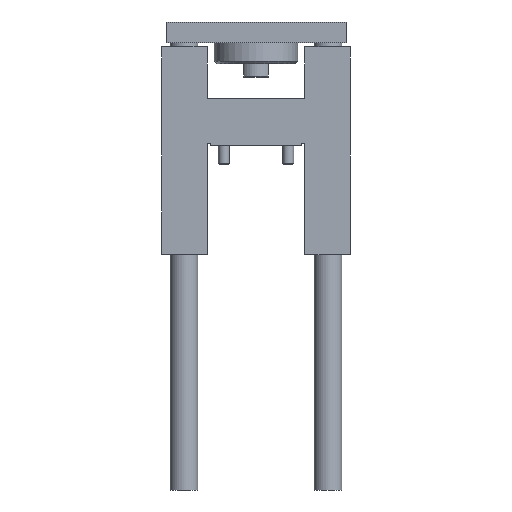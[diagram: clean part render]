
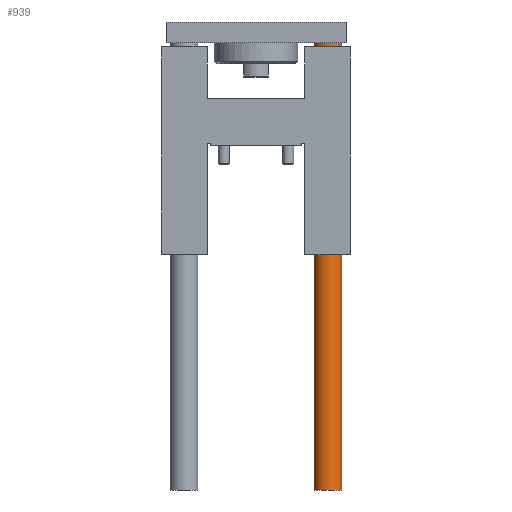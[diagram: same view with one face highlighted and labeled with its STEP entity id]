
A CAD part, front view. The second image highlights one B-rep face of the part: STEP entity #939.
In plain terms, the highlighted cylindrical face has radius 10 mm (diameter 20 mm), a partial arc.
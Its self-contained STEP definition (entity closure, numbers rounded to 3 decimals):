
#476 = ORIENTED_EDGE ( 'NONE', *, *, #5807, .F. ) ;
#939 = ADVANCED_FACE ( 'NONE', ( #6307 ), #1228, .T. ) ;
#999 = CIRCLE ( 'NONE', #9915, 10. ) ;
#1190 = CARTESIAN_POINT ( 'NONE',  ( 52., 0., -249. ) ) ;
#1228 = CYLINDRICAL_SURFACE ( 'NONE', #9287, 10. ) ;
#1269 = CARTESIAN_POINT ( 'NONE',  ( 42., 0., 74. ) ) ;
#1283 = VERTEX_POINT ( 'NONE', #4594 ) ;
#1403 = CARTESIAN_POINT ( 'NONE',  ( 42., 0., -249. ) ) ;
#2308 = DIRECTION ( 'NONE',  ( 1., 0., 0. ) ) ;
#2489 = CARTESIAN_POINT ( 'NONE',  ( 62., 0., -249. ) ) ;
#3000 = ORIENTED_EDGE ( 'NONE', *, *, #7554, .T. ) ;
#3190 = VERTEX_POINT ( 'NONE', #7969 ) ;
#3297 = VECTOR ( 'NONE', #6581, 1000. ) ;
#3972 = LINE ( 'NONE', #2489, #3297 ) ;
#4163 = ORIENTED_EDGE ( 'NONE', *, *, #8628, .T. ) ;
#4165 = ORIENTED_EDGE ( 'NONE', *, *, #9174, .F. ) ;
#4491 = EDGE_LOOP ( 'NONE', ( #476, #3000, #4163, #4165 ) ) ;
#4501 = VERTEX_POINT ( 'NONE', #1269 ) ;
#4541 = DIRECTION ( 'NONE',  ( 0., 0., 1. ) ) ;
#4576 = DIRECTION ( 'NONE',  ( 0., 0., -1. ) ) ;
#4594 = CARTESIAN_POINT ( 'NONE',  ( 42., 0., -249. ) ) ;
#5323 = CARTESIAN_POINT ( 'NONE',  ( 52., 0., -249. ) ) ;
#5401 = VECTOR ( 'NONE', #7302, 1000. ) ;
#5439 = DIRECTION ( 'NONE',  ( 1., 0., 0. ) ) ;
#5807 = EDGE_CURVE ( 'NONE', #4501, #9204, #999, .T. ) ;
#6307 = FACE_OUTER_BOUND ( 'NONE', #4491, .T. ) ;
#6581 = DIRECTION ( 'NONE',  ( 0., 0., -1. ) ) ;
#7230 = DIRECTION ( 'NONE',  ( 0., 0., 1. ) ) ;
#7302 = DIRECTION ( 'NONE',  ( 0., 0., -1. ) ) ;
#7554 = EDGE_CURVE ( 'NONE', #4501, #1283, #10608, .T. ) ;
#7867 = DIRECTION ( 'NONE',  ( 1., 0., 0. ) ) ;
#7969 = CARTESIAN_POINT ( 'NONE',  ( 62., 0., -249. ) ) ;
#8269 = CARTESIAN_POINT ( 'NONE',  ( 52., 0., 74. ) ) ;
#8344 = CARTESIAN_POINT ( 'NONE',  ( 62., 0., 74. ) ) ;
#8521 = CIRCLE ( 'NONE', #10634, 10. ) ;
#8628 = EDGE_CURVE ( 'NONE', #1283, #3190, #8521, .T. ) ;
#9174 = EDGE_CURVE ( 'NONE', #9204, #3190, #3972, .T. ) ;
#9204 = VERTEX_POINT ( 'NONE', #8344 ) ;
#9287 = AXIS2_PLACEMENT_3D ( 'NONE', #5323, #4576, #5439 ) ;
#9915 = AXIS2_PLACEMENT_3D ( 'NONE', #8269, #7230, #2308 ) ;
#10608 = LINE ( 'NONE', #1403, #5401 ) ;
#10634 = AXIS2_PLACEMENT_3D ( 'NONE', #1190, #4541, #7867 ) ;
